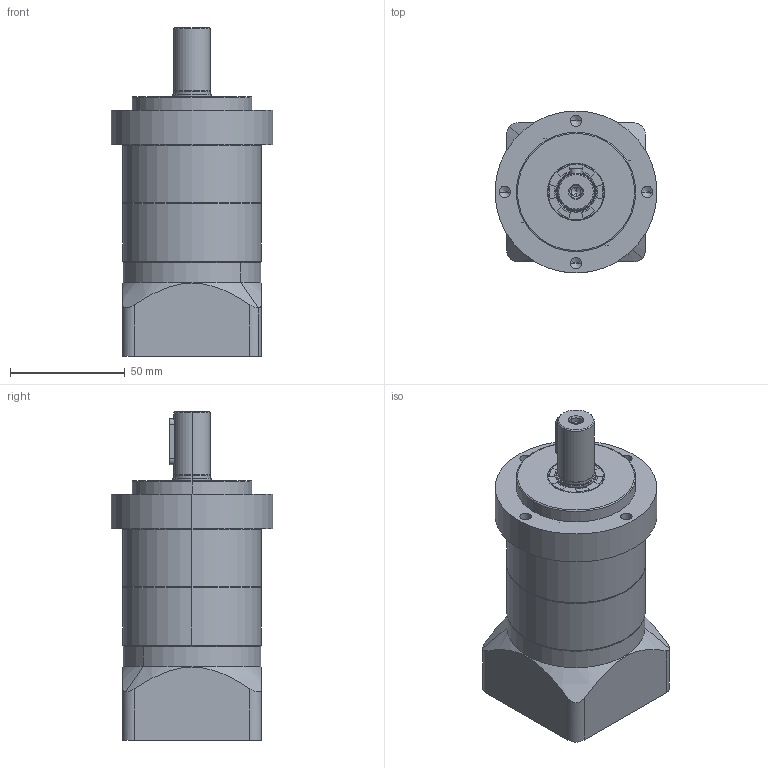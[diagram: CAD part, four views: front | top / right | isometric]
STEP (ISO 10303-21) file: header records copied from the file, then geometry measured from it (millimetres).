
FILE_DESCRIPTION (( 'STEP AP203' ), '1' );
FILE_NAME ('NA60-L2(8-38.1-66.67-M4).STEP', '2022-03-11T17:10:59', ( '' ), ( '' ), 'SwSTEP 2.0', 'SolidWorks 2016', '' );
FILE_SCHEMA (( 'CONFIG_CONTROL_DESIGN' ));
Length unit declared in the file: millimetre
Products named in the file (9): NA60-L2(8-38.1-66.67-M4); SN60-17x25x4; SN60-34x20x10.5-M5; NA60-(52x6-62-M5); SN60-(38.1-66.67-M4); SN60-(16x29-5x20); SN60; 60-(o14-8x17); SN60-(14)
Assembly tree (9 placements, depth 2):
  NA60-L2(8-38.1-66.67-M4)
    NA60-(52x6-62-M5)
    SN60-17x25x4
    SN60-(16x29-5x20)
    SN60  x2
    SN60-(38.1-66.67-M4)
    SN60-(14)
    SN60-34x20x10.5-M5
    60-(o14-8x17)
Bounding box: 70.5 x 70.5 x 143 mm (x, y, z)
Volume: 339397.1 mm3; surface area: 79487 mm2
Topology: 12 solids, 12 shells, 438 faces, 1093 edges, 684 vertices
Faces by surface type: cylinder 218, plane 107, cone 66, bspline 39, torus 8
Entity records: 31926 total; most frequent: CARTESIAN_POINT 21476, ORIENTED_EDGE 2058, DIRECTION 1912, EDGE_CURVE 1029, AXIS2_PLACEMENT_3D 753, VERTEX_POINT 660, EDGE_LOOP 485, FACE_OUTER_BOUND 422
